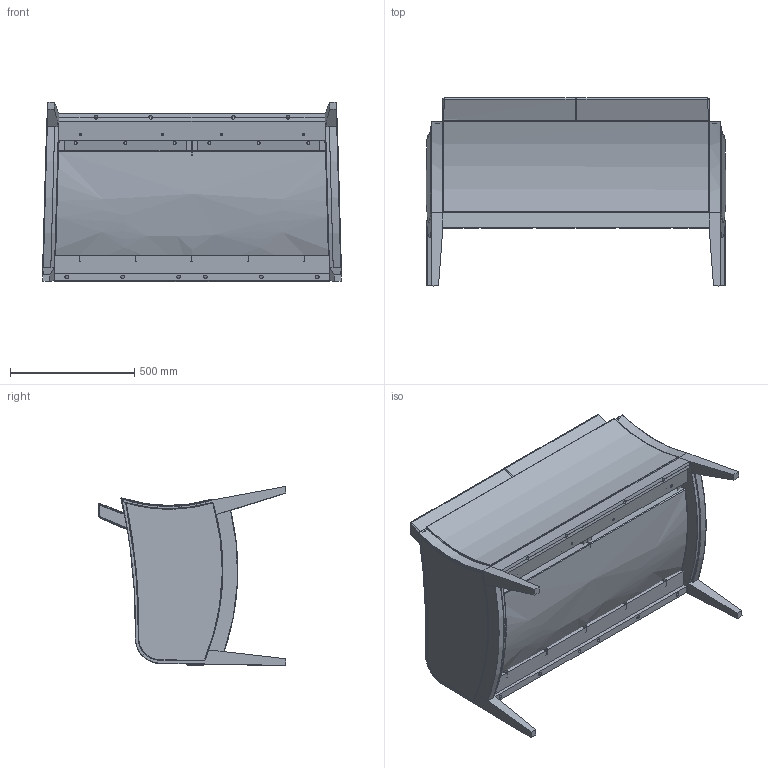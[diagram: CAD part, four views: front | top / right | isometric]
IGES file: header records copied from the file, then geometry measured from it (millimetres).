
Start section: SolidWorks IGES file using analytic representation for surfaces
Global section: file name: D:\DESENHOSSOLIDWORKS\Desenhos Tecnicos\Fabrica2\Cadeiras\Técnicos\ELLEN\3d Surfaces\Ellen M630D.IGS; native system: SolidWorks 2012; preprocessor: SolidWorks 2012; author: emanuel; date: 121029.144551; units: millimetre
Bounding box: 1203.51 x 755.06 x 720.75 mm (x, y, z)
Surface area: 5174332.9 mm2 (no closed solid volume)
Topology: 0 solids, 0 shells, 310 faces, 4721 edges, 4721 vertices
Faces by surface type: bspline 184, revolution 126
